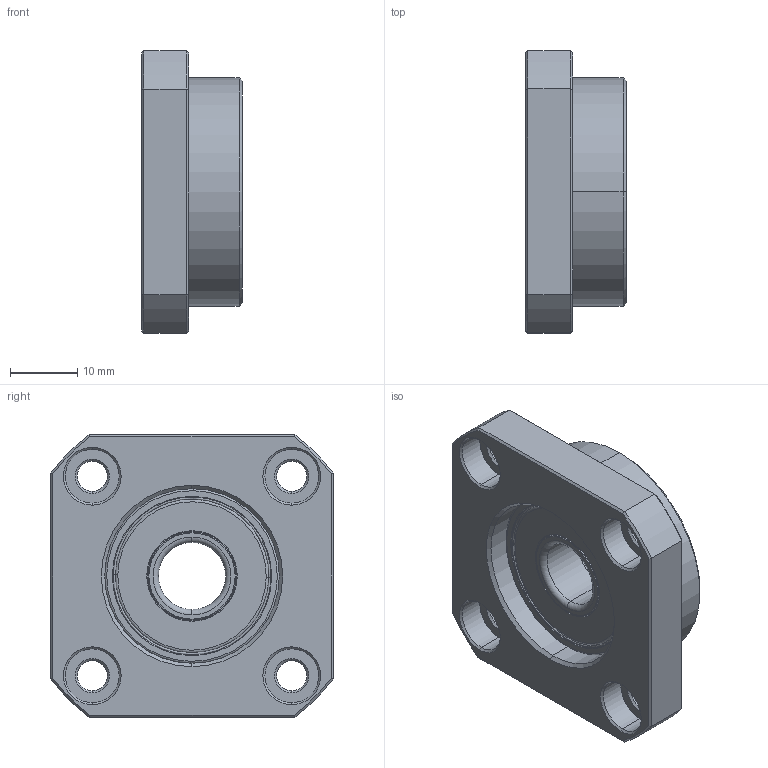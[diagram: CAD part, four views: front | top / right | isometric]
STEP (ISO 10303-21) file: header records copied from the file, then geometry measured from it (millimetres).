
FILE_DESCRIPTION (( 'STEP AP203' ), '1' );
FILE_NAME ('FF12²Õ¦X¥ó.STEP', '2017-12-27T08:47:20', ( '' ), ( '' ), 'SwSTEP 2.0', 'SolidWorks 2017', '' );
FILE_SCHEMA (( 'CONFIG_CONTROL_DESIGN' ));
Length unit declared in the file: millimetre
Products named in the file (1): FF12組合件
Bounding box: 15 x 42 x 42 mm (x, y, z)
Surface area: 7295.4 mm2 (no closed solid volume)
Topology: 0 solids, 6 shells, 135 faces, 294 edges, 174 vertices
Faces by surface type: cone 38, cylinder 38, torus 32, plane 27
Entity records: 3808 total; most frequent: DIRECTION 740, CARTESIAN_POINT 652, ORIENTED_EDGE 568, AXIS2_PLACEMENT_3D 326, EDGE_CURVE 294, CIRCLE 190, VERTEX_POINT 174, EDGE_LOOP 158
